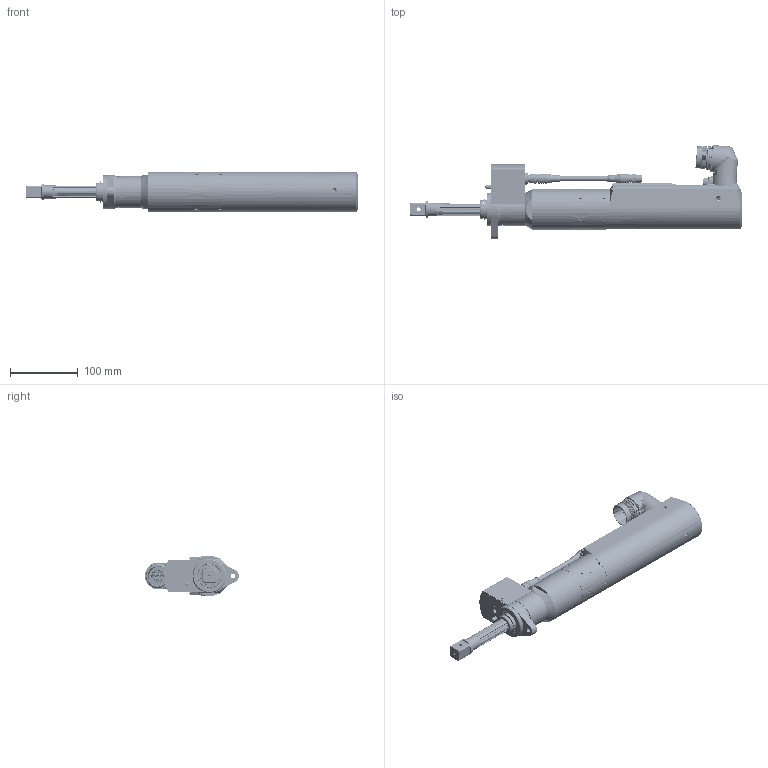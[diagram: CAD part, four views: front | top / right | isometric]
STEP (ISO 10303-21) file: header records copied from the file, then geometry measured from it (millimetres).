
FILE_DESCRIPTION((''),'2;1');
FILE_NAME('6151659150_ASM','2014-12-16T',('greextadu'),(''),'PRO/ENGINEER BY PARAMETRIC TECHNOLOGY CORPORATION, 2014200','PRO/ENGINEER BY PARAMETRIC TECHNOLOGY CORPORATION, 2014200','');
FILE_SCHEMA(('AUTOMOTIVE_DESIGN { 1 0 10303 214 1 1 1 1 }'));
Products named in the file (47): 6155671590; 6156350160; 6155671590_ASM; 6155680100_ASM; 6155732560; 6155732570; 6155732580; 6155732550_ASM; CON-BINDER-12PTS-MAL-M12_AF0; 6159190280_ASM; 6159190830_ASM; 6159308120; 6155704060; 6156101530; 6157850670; 6153981580_ASM; 6152250490; 6153977920_ASM; 6154761090; 6156700750; 6155654600; 6156700710; 6155654620; 6155100010; 6155654630; 6157900050; MANIFOLD_SOLID_BREP_95_1; MANIFOLD_SOLID_BREP_96_1; MANIFOLD_SOLID_BREP_97; KBOR047E7SPU_ASM; 6159383480_ASM; 6156161460; 6156110330; 6159380510; 6156582760; 6159160920; 6156101290; 6156583490; 6153942950_ASM; 6159174112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
Assembly tree (52 placements, depth 6):
  6151659150_ASM
    6151658570_ASM
      6153981580_ASM
        6155680100_ASM
          6155671590_ASM
            6155671590
            6156350160
        6155732550_ASM
          6155732560
          6155732570
          6155732580
        6159190830_ASM
          6159190280_ASM
            CON-BINDER-12PTS-MAL-M12_AF0
        6159308120
        6155704060
        6156101530  x2
        6157850670
      6153977920_ASM
        6152250490
      6154761090
      6153942950_ASM
        6156700750
        6155654600
        6156700710
        6155654620
        6155100010
        6155654630
        6157900050
        6159383480_ASM
          KBOR047E7SPU_ASM
            MANIFOLD_SOLID_BREP_95_1
            MANIFOLD_SOLID_BREP_96_1
            MANIFOLD_SOLID_BREP_97
          6159308120
        6156161460  x4
        6156110330  x2
        6159380510
        6156582760
        6159160920
        6156101290
        6156583490
      6159174150_AF0_ASM
        6159174112
        6159384080
        6159384090
    6155210730
    0335350602
Bounding box: 491.9 x 139.26 x 60 mm (x, y, z)
Volume: 527197.1 mm3; surface area: 315529.7 mm2
Topology: 40 solids, 71 shells, 5484 faces, 14228 edges, 9030 vertices
Faces by surface type: plane 1918, cylinder 1868, cone 717, torus 699, bspline 151, extrusion 99, sphere 32
Entity records: 257123 total; most frequent: CARTESIAN_POINT 68364, ORIENTED_EDGE 27578, DIRECTION 26663, EDGE_CURVE 13850, PRESENTATION_STYLE_ASSIGNMENT 12719, STYLED_ITEM 12389, CURVE_STYLE 11988, AXIS2_PLACEMENT_3D 10363
